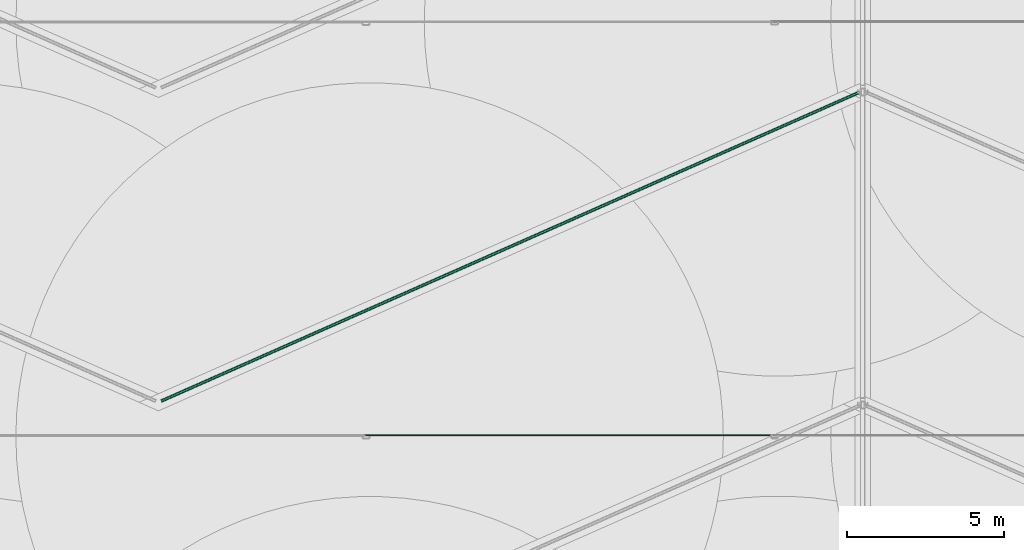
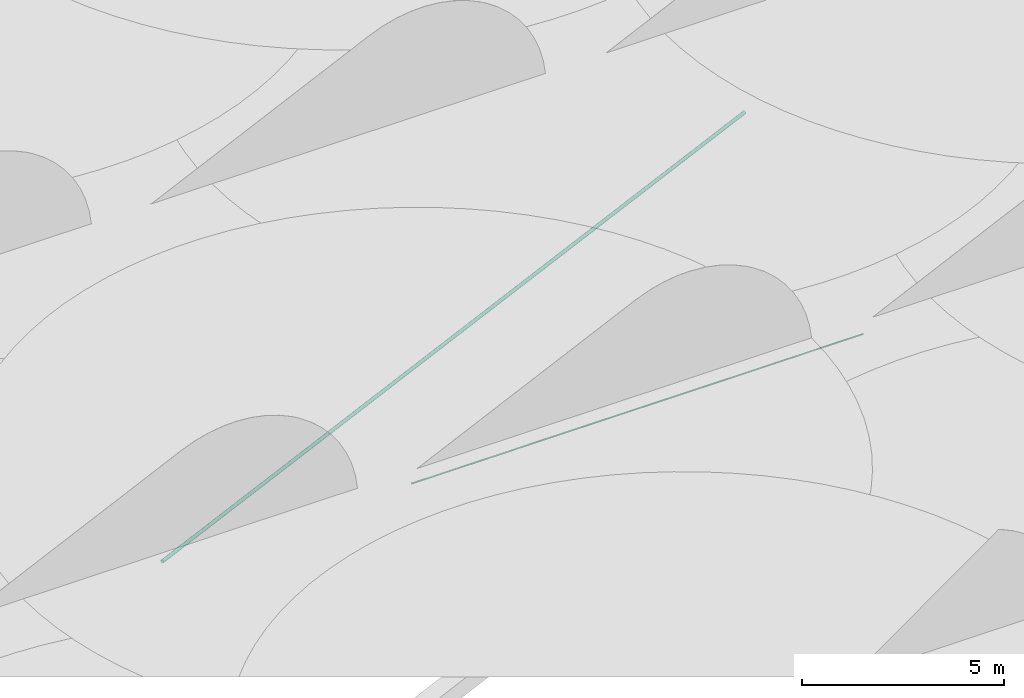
# One storey, part 36 of 166: 2 flow segments.
"""IFC2X3 building model written with IfcOpenShell, lengths in metres."""

from ifc_helpers import new_model, entity, si_unit, converted_unit, direction, frame, frame_2d, origin, origin_2d_with_axis, place, context, subcontext, project, spatial, circle, extrude, type_object, element, save


model = new_model("IFC2X3")

# Units and contexts
model_context = context("Model", 3, precision=1e-05, world=origin(), true_north=direction((6.123233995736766e-17, 1.0)))
body_context = subcontext(model_context, "Body", "Model", "MODEL_VIEW")
ifc_project = project(units=[si_unit("LENGTHUNIT", "METRE"), converted_unit("PLANEANGLEUNIT", "DEGREE", entity("IfcPlaneAngleMeasure", 0.017453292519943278), si_unit("PLANEANGLEUNIT", "RADIAN"), dimensions=[0, 0, 0, 0, 0, 0, 0]), si_unit("AREAUNIT", "SQUARE_METRE")], contexts=[model_context])

# Site, building, storey
site_placement = place(None, origin())
site = spatial("IfcSite", under=ifc_project, at=site_placement, Name="Default", CompositionType="ELEMENT")
building_placement = place(site_placement, origin())
building = spatial("IfcBuilding", under=site, at=building_placement, Name="CASA DE ACOLHIDA PARA IDOSOS", CompositionType="ELEMENT")
storey_placement = place(building_placement, frame((0.0, 0.0, -1.7499999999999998)))
storey = spatial("IfcBuildingStorey", under=building, at=storey_placement, Name="IMPLANTAÇÃO DRENAGEM", CompositionType="ELEMENT", Elevation=-1.7499999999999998)

# Flow segments
pipe_segment_type_1 = type_object("IfcPipeSegmentType", Name="Tipos de tubos:PLUV_Tubo PEAD Corrugado", PredefinedType="NOTDEFINED")
flow_segment_1_placement = place(storey_placement, origin())
element("IfcFlowSegment", 1, at=flow_segment_1_placement, inside=storey, type_object=pipe_segment_type_1, Name="Tipos de tubos:PLUV_Tubo PEAD Corrugado", ObjectType="Tipos de tubos:PLUV_Tubo PEAD Corrugado", context=body_context, shape_type="SweptSolid", body=[
    extrude(circle(Radius=0.05, at=origin_2d_with_axis()), frame((0.581709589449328, 23.953057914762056, -0.9500099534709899), z_axis=(0.9144899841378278, 0.40448495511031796, -0.009999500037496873), x_axis=(0.40450517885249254, -0.9145357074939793, 0.0)), (0.0, 0.0, 1.0), 24.480228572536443),
])
pipe_segment_type_2 = type_object("IfcPipeSegmentType", Name="Tipos de tubos:AF_Tubo Marrom Soldável", PredefinedType="NOTDEFINED")
flow_segment_2_placement = place(storey_placement, origin())
element("IfcFlowSegment", 2, at=flow_segment_2_placement, inside=storey, type_object=pipe_segment_type_2, Name="Tipos de tubos:AF_Tubo Marrom Soldável", ObjectType="Tipos de tubos:AF_Tubo Marrom Soldável", context=body_context, shape_type="SweptSolid", body=[
    extrude(circle(Radius=0.016, at=frame_2d((0.0, -2.707167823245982e-16), x_axis=(1.0, 0.0))), frame((7.082445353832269, 22.854942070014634, -0.19999999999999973), z_axis=(1.0, 0.0, 0.0), x_axis=(0.0, -1.0, 0.0)), (0.0, 0.0, 1.0), 12.933905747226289),
])

save(model, "model.ifc")
